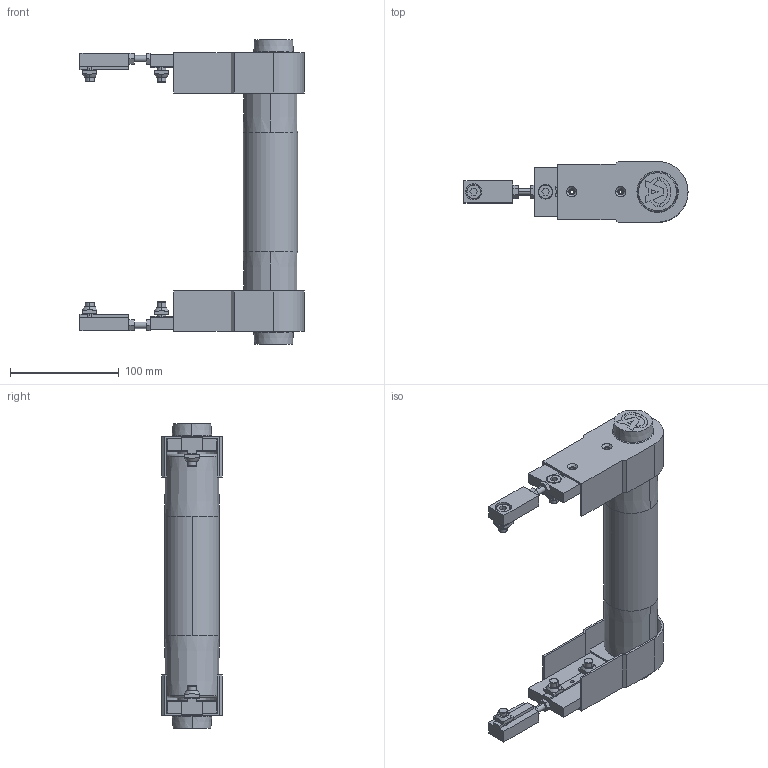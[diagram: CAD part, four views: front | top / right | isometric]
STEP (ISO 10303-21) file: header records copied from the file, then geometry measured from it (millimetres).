
FILE_DESCRIPTION (( 'STEP AP203' ), '1' );
FILE_NAME ('084.050.KIC.200.STEP', '2019-07-29T10:24:10', ( '' ), ( '' ), 'SwSTEP 2.0', 'SolidWorks 2018', '' );
FILE_SCHEMA (( 'CONFIG_CONTROL_DESIGN' ));
Length unit declared in the file: millimetre
Products named in the file (10): 084.807.004_084.807.004; 084.302.000 DADI ALUSIC 13x13_084.302.004; 084.815.103_Default<A macchina>; 084.802.008; 084.811.004; 084.050.KIC.200; 084.810.001; 084.301.000 VITI ALUSIC_084.301.003; 084.802.017_084.802.017; 084.802.023_084.802.023
Assembly tree (25 placements, depth 2):
  084.050.KIC.200
    084.807.004_084.807.004  x2
    084.802.017_084.802.017  x2
    084.811.004  x2
    084.815.103_Default<A macchina>
    084.810.001  x2
    084.802.008  x2
    084.802.023_084.802.023  x2
    084.301.000 VITI ALUSIC_084.301.003  x6
    084.302.000 DADI ALUSIC 13x13_084.302.004  x6
Bounding box: 206 x 56 x 280 mm (x, y, z)
Volume: 420243.9 mm3; surface area: 271134.1 mm2
Topology: 31 solids, 33 shells, 882 faces, 2216 edges, 1444 vertices
Faces by surface type: plane 422, cylinder 234, torus 80, cone 76, bspline 62, sphere 8
Entity records: 14634 total; most frequent: CARTESIAN_POINT 2847, DIRECTION 2208, ORIENTED_EDGE 2108, EDGE_CURVE 1054, AXIS2_PLACEMENT_3D 828, VERTEX_POINT 691, LINE 552, VECTOR 552
